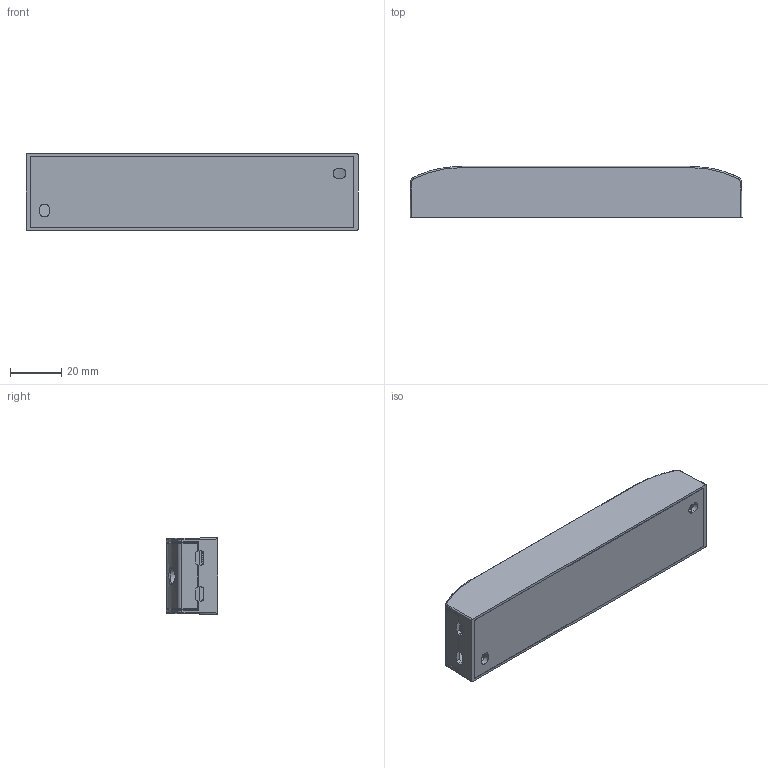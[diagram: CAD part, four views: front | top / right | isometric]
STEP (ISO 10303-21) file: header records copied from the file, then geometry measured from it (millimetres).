
FILE_DESCRIPTION((''),'2;1');
FILE_NAME('IT-DIM-CS-12W_ASM','2023-04-19T14:40:11',('admin'),(''),'CREO PARAMETRIC BY PTC INC, 2021023','CREO PARAMETRIC BY PTC INC, 2021023','');
FILE_SCHEMA(('CONFIG_CONTROL_DESIGN'));
Products named in the file (5): 0-10V-150MM_SW0002; 111; CAP; PRT0001; IT-DIM-CS-12W_ASM
Assembly tree (6 placements, depth 2):
  IT-DIM-CS-12W_ASM
    0-10V-150MM_SW0002
    111  x3
    CAP
    PRT0001
Bounding box: 130 x 20 x 30 mm (x, y, z)
Volume: 50939.5 mm3; surface area: 44601.4 mm2
Topology: 6 solids, 6 shells, 2317 faces, 6387 edges, 3995 vertices
Faces by surface type: plane 1308, cylinder 634, bspline 110, sphere 95, cone 78, torus 64, extrusion 28
Entity records: 62924 total; most frequent: CARTESIAN_POINT 21115, ORIENTED_EDGE 9226, DIRECTION 7932, EDGE_CURVE 4613, VECTOR 3014, LINE 2986, VERTEX_POINT 2875, AXIS2_PLACEMENT_3D 2459
